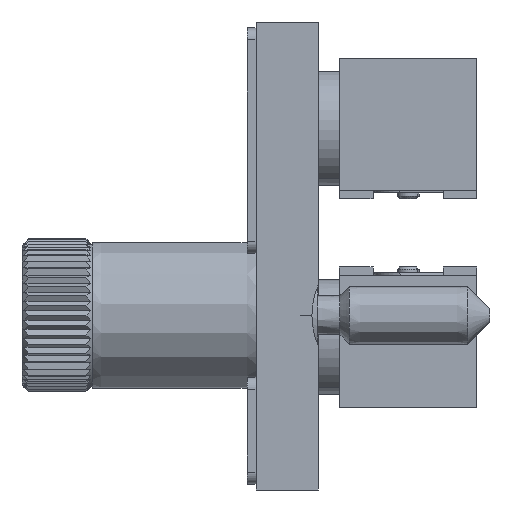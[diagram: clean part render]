
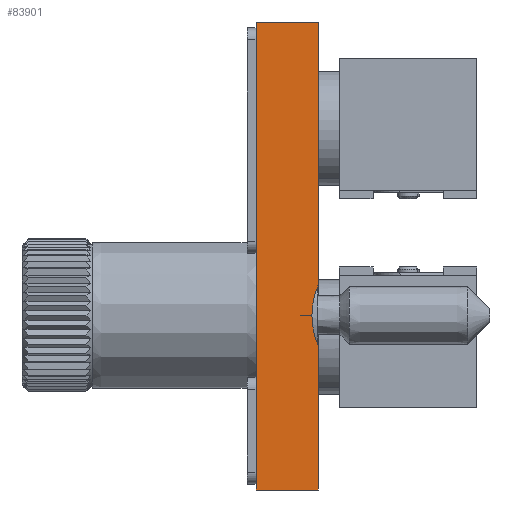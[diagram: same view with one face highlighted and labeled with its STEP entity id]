
A CAD part, front view. The second image highlights one B-rep face of the part: STEP entity #83901.
In plain terms, the highlighted planar face has unit normal (0, -1, 0).
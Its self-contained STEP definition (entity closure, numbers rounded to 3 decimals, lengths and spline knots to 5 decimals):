
#72500=DIRECTION('',(0.,0.,-1.));
#72501=VECTOR('',#72500,0.44094);
#72502=CARTESIAN_POINT('',(-4.168,-4.502,0.695));
#72503=LINE('',#72502,#72501);
#72525=DIRECTION('',(0.,0.,-1.));
#72526=VECTOR('',#72525,0.24094);
#72527=CARTESIAN_POINT('',(-4.168,-4.502,0.14794));
#72528=LINE('',#72527,#72526);
#72743=DIRECTION('',(1.,0.,0.));
#72744=VECTOR('',#72743,0.105);
#72745=CARTESIAN_POINT('',(-4.273,-4.502,0.695));
#72746=LINE('',#72745,#72744);
#72747=CARTESIAN_POINT('',(-4.168,-4.502,0.25406));
#72748=CARTESIAN_POINT('',(-4.169,-4.502,
0.25154));
#72749=CARTESIAN_POINT('',(-4.17089,-4.502,
0.24649));
#72750=CARTESIAN_POINT('',(-4.17335,-4.502,
0.23885));
#72751=CARTESIAN_POINT('',(-4.1754,-4.502,
0.23121));
#72752=CARTESIAN_POINT('',(-4.17702,-4.502,
0.22356));
#72753=CARTESIAN_POINT('',(-4.17817,-4.502,
0.21596));
#72754=CARTESIAN_POINT('',(-4.17885,-4.502,
0.2084));
#72755=CARTESIAN_POINT('',(-4.179,-4.502,
0.20344));
#72756=CARTESIAN_POINT('',(-4.179,-4.502,
0.20097));
#72758=CARTESIAN_POINT('',(-4.179,-4.502,
0.20097));
#72759=CARTESIAN_POINT('',(-4.179,-4.502,
0.1985));
#72760=CARTESIAN_POINT('',(-4.17885,-4.502,
0.19353));
#72761=CARTESIAN_POINT('',(-4.17816,-4.502,
0.18595));
#72762=CARTESIAN_POINT('',(-4.177,-4.502,
0.17834));
#72763=CARTESIAN_POINT('',(-4.17538,-4.502,
0.17069));
#72764=CARTESIAN_POINT('',(-4.17333,-4.502,
0.16306));
#72765=CARTESIAN_POINT('',(-4.17087,-4.502,
0.15545));
#72766=CARTESIAN_POINT('',(-4.16899,-4.502,
0.15044));
#72767=CARTESIAN_POINT('',(-4.168,-4.502,0.14794));
#72779=CARTESIAN_POINT('',(-4.273,-4.502,0.201));
#72828=DIRECTION('',(0.,0.,-1.));
#72829=VECTOR('',#72828,0.294);
#72830=CARTESIAN_POINT('',(-4.273,-4.502,0.201));
#72831=LINE('',#72830,#72829);
#72907=DIRECTION('',(0.,0.,-1.));
#72908=VECTOR('',#72907,0.494);
#72909=CARTESIAN_POINT('',(-4.273,-4.502,0.695));
#72910=LINE('',#72909,#72908);
#75849=DIRECTION('',(1.,0.,0.));
#75850=VECTOR('',#75849,0.105);
#75851=CARTESIAN_POINT('',(-4.273,-4.502,-0.093));
#75852=LINE('',#75851,#75850);
#81310=CARTESIAN_POINT('',(-4.273,-4.502,-0.093));
#81312=VERTEX_POINT('',#81310);
#81315=CARTESIAN_POINT('',(-4.273,-4.502,0.695));
#81317=VERTEX_POINT('',#81315);
#81318=CARTESIAN_POINT('',(-4.168,-4.502,-0.093));
#81320=VERTEX_POINT('',#81318);
#81323=CARTESIAN_POINT('',(-4.168,-4.502,0.695));
#81325=VERTEX_POINT('',#81323);
#81326=VERTEX_POINT('',#72758);
#81327=VERTEX_POINT('',#72767);
#81334=VERTEX_POINT('',#72747);
#82182=VERTEX_POINT('',#72779);
#83882=CARTESIAN_POINT('',(-4.273,-4.502,0.695));
#83883=DIRECTION('',(0.,-1.,0.));
#83884=DIRECTION('',(0.,0.,-1.));
#83885=AXIS2_PLACEMENT_3D('',#83882,#83883,#83884);
#83886=PLANE('',#83885);
#83888=ORIENTED_EDGE('',*,*,#83887,.F.);
#83890=ORIENTED_EDGE('',*,*,#83889,.T.);
#83891=ORIENTED_EDGE('',*,*,#83723,.T.);
#83892=ORIENTED_EDGE('',*,*,#83710,.T.);
#83893=ORIENTED_EDGE('',*,*,#83873,.T.);
#83894=ORIENTED_EDGE('',*,*,#83737,.T.);
#83896=ORIENTED_EDGE('',*,*,#83895,.F.);
#83898=ORIENTED_EDGE('',*,*,#83897,.F.);
#83899=EDGE_LOOP('',(#83888,#83890,#83891,#83892,#83893,#83894,#83896,#83898));
#83900=FACE_OUTER_BOUND('',#83899,.F.);
#83901=ADVANCED_FACE('',(#83900),#83886,.T.);
#72757=B_SPLINE_CURVE_WITH_KNOTS('',3,(#72747,#72748,#72749,#72750,#72751,
#72752,#72753,#72754,#72755,#72756),.UNSPECIFIED.,.F.,.F.,(4,1,1,1,1,1,1,4),(
0.,0.14286,0.28571,0.42857,0.57143,
0.71429,0.85714,1.),.UNSPECIFIED.);
#72768=B_SPLINE_CURVE_WITH_KNOTS('',3,(#72758,#72759,#72760,#72761,#72762,
#72763,#72764,#72765,#72766,#72767),.UNSPECIFIED.,.F.,.F.,(4,1,1,1,1,1,1,4),(
0.,0.14286,0.28571,0.42857,0.57143,
0.71429,0.85714,1.),.UNSPECIFIED.);
#83710=EDGE_CURVE('',#81334,#81326,#72757,.T.);
#83723=EDGE_CURVE('',#81325,#81334,#72503,.T.);
#83737=EDGE_CURVE('',#81327,#81320,#72528,.T.);
#83873=EDGE_CURVE('',#81326,#81327,#72768,.T.);
#83887=EDGE_CURVE('',#81317,#82182,#72910,.T.);
#83889=EDGE_CURVE('',#81317,#81325,#72746,.T.);
#83895=EDGE_CURVE('',#81312,#81320,#75852,.T.);
#83897=EDGE_CURVE('',#82182,#81312,#72831,.T.);
